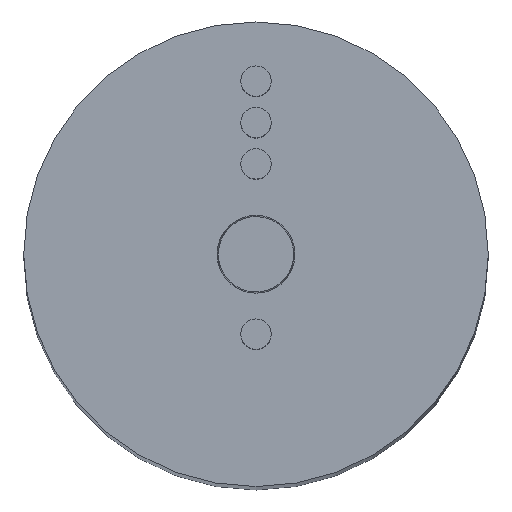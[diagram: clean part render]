
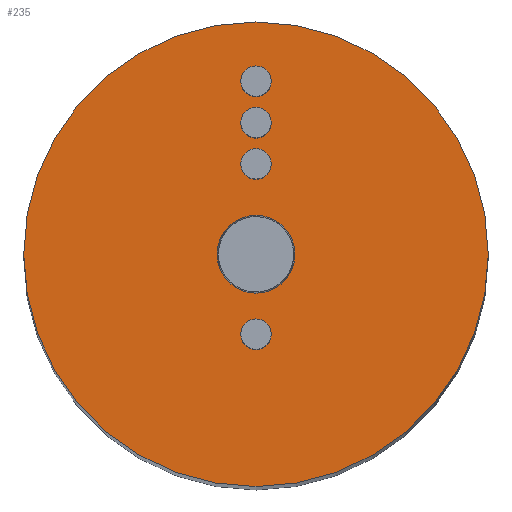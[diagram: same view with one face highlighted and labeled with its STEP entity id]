
A CAD part, top view. The second image highlights one B-rep face of the part: STEP entity #235.
In plain terms, the highlighted planar face has unit normal (0, 0, 1).
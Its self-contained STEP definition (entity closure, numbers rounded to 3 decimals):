
#235=ADVANCED_FACE('',(#307,#308,#309,#310,#311,#312),#313,.F.);
#307=FACE_OUTER_BOUND('',#428,.T.);
#308=FACE_BOUND('',#429,.T.);
#309=FACE_BOUND('',#430,.T.);
#310=FACE_BOUND('',#431,.T.);
#311=FACE_BOUND('',#432,.T.);
#312=FACE_BOUND('',#433,.T.);
#313=PLANE('',#434);
#428=EDGE_LOOP('',(#621,#622));
#429=EDGE_LOOP('',(#623,#624));
#430=EDGE_LOOP('',(#625,#626));
#431=EDGE_LOOP('',(#627,#628));
#432=EDGE_LOOP('',(#629,#630));
#433=EDGE_LOOP('',(#631,#632));
#434=AXIS2_PLACEMENT_3D('',#633,#634,#635);
#621=ORIENTED_EDGE('',*,*,#917,.F.);
#622=ORIENTED_EDGE('',*,*,#948,.F.);
#623=ORIENTED_EDGE('',*,*,#935,.T.);
#624=ORIENTED_EDGE('',*,*,#939,.T.);
#625=ORIENTED_EDGE('',*,*,#931,.T.);
#626=ORIENTED_EDGE('',*,*,#941,.T.);
#627=ORIENTED_EDGE('',*,*,#927,.T.);
#628=ORIENTED_EDGE('',*,*,#943,.T.);
#629=ORIENTED_EDGE('',*,*,#923,.T.);
#630=ORIENTED_EDGE('',*,*,#945,.T.);
#631=ORIENTED_EDGE('',*,*,#947,.T.);
#632=ORIENTED_EDGE('',*,*,#919,.T.);
#633=CARTESIAN_POINT('',(-25.487,16.042,81.5));
#634=DIRECTION('',(0.0,0.0,-1.0));
#635=DIRECTION('',(0.0,-1.0,0.0));
#917=EDGE_CURVE('',#1035,#1031,#1037,.T.);
#919=EDGE_CURVE('',#1041,#1038,#1042,.T.);
#923=EDGE_CURVE('',#1049,#1046,#1050,.T.);
#927=EDGE_CURVE('',#1057,#1054,#1058,.T.);
#931=EDGE_CURVE('',#1065,#1062,#1066,.T.);
#935=EDGE_CURVE('',#1073,#1070,#1074,.T.);
#939=EDGE_CURVE('',#1070,#1073,#1079,.T.);
#941=EDGE_CURVE('',#1062,#1065,#1081,.T.);
#943=EDGE_CURVE('',#1054,#1057,#1083,.T.);
#945=EDGE_CURVE('',#1046,#1049,#1085,.T.);
#947=EDGE_CURVE('',#1038,#1041,#1087,.T.);
#948=EDGE_CURVE('',#1031,#1035,#1088,.T.);
#1031=VERTEX_POINT('',#1221);
#1035=VERTEX_POINT('',#1226);
#1037=CIRCLE('',#1229,9.55);
#1038=VERTEX_POINT('',#1230);
#1041=VERTEX_POINT('',#1234);
#1042=CIRCLE('',#1235,1.6);
#1046=VERTEX_POINT('',#1240);
#1049=VERTEX_POINT('',#1244);
#1050=CIRCLE('',#1245,0.625);
#1054=VERTEX_POINT('',#1250);
#1057=VERTEX_POINT('',#1254);
#1058=CIRCLE('',#1255,0.625);
#1062=VERTEX_POINT('',#1260);
#1065=VERTEX_POINT('',#1264);
#1066=CIRCLE('',#1265,0.625);
#1070=VERTEX_POINT('',#1270);
#1073=VERTEX_POINT('',#1274);
#1074=CIRCLE('',#1275,0.625);
#1079=CIRCLE('',#1281,0.625);
#1081=CIRCLE('',#1283,0.625);
#1083=CIRCLE('',#1285,0.625);
#1085=CIRCLE('',#1287,0.625);
#1087=CIRCLE('',#1289,1.6);
#1088=CIRCLE('',#1290,9.55);
#1221=CARTESIAN_POINT('',(-35.037,16.042,81.5));
#1226=CARTESIAN_POINT('',(-15.937,16.042,81.5));
#1229=AXIS2_PLACEMENT_3D('',#1481,#1482,#1483);
#1230=CARTESIAN_POINT('',(-23.887,16.042,81.5));
#1234=CARTESIAN_POINT('',(-27.087,16.042,81.5));
#1235=AXIS2_PLACEMENT_3D('',#1485,#1486,#1487);
#1240=CARTESIAN_POINT('',(-26.112,21.442,81.5));
#1244=CARTESIAN_POINT('',(-24.862,21.442,81.5));
#1245=AXIS2_PLACEMENT_3D('',#1493,#1494,#1495);
#1250=CARTESIAN_POINT('',(-26.112,23.142,81.5));
#1254=CARTESIAN_POINT('',(-24.862,23.142,81.5));
#1255=AXIS2_PLACEMENT_3D('',#1501,#1502,#1503);
#1260=CARTESIAN_POINT('',(-26.112,19.742,81.5));
#1264=CARTESIAN_POINT('',(-24.862,19.742,81.5));
#1265=AXIS2_PLACEMENT_3D('',#1509,#1510,#1511);
#1270=CARTESIAN_POINT('',(-26.112,12.742,81.5));
#1274=CARTESIAN_POINT('',(-24.862,12.742,81.5));
#1275=AXIS2_PLACEMENT_3D('',#1517,#1518,#1519);
#1281=AXIS2_PLACEMENT_3D('',#1527,#1528,#1529);
#1283=AXIS2_PLACEMENT_3D('',#1533,#1534,#1535);
#1285=AXIS2_PLACEMENT_3D('',#1539,#1540,#1541);
#1287=AXIS2_PLACEMENT_3D('',#1545,#1546,#1547);
#1289=AXIS2_PLACEMENT_3D('',#1551,#1552,#1553);
#1290=AXIS2_PLACEMENT_3D('',#1554,#1555,#1556);
#1481=CARTESIAN_POINT('',(-25.487,16.042,81.5));
#1482=DIRECTION('',(0.0,0.0,-1.0));
#1483=DIRECTION('',(-1.0,0.0,0.0));
#1485=CARTESIAN_POINT('',(-25.487,16.042,81.5));
#1486=DIRECTION('',(0.0,0.0,-1.0));
#1487=DIRECTION('',(1.0,0.0,0.0));
#1493=CARTESIAN_POINT('',(-25.487,21.442,81.5));
#1494=DIRECTION('',(0.0,0.0,-1.0));
#1495=DIRECTION('',(-1.0,0.0,0.0));
#1501=CARTESIAN_POINT('',(-25.487,23.142,81.5));
#1502=DIRECTION('',(0.0,0.0,-1.0));
#1503=DIRECTION('',(-1.0,0.0,0.0));
#1509=CARTESIAN_POINT('',(-25.487,19.742,81.5));
#1510=DIRECTION('',(0.0,0.0,-1.0));
#1511=DIRECTION('',(-1.0,0.0,0.0));
#1517=CARTESIAN_POINT('',(-25.487,12.742,81.5));
#1518=DIRECTION('',(0.0,0.0,-1.0));
#1519=DIRECTION('',(-1.0,0.0,0.0));
#1527=CARTESIAN_POINT('',(-25.487,12.742,81.5));
#1528=DIRECTION('',(0.0,0.0,-1.0));
#1529=DIRECTION('',(-1.0,0.0,0.0));
#1533=CARTESIAN_POINT('',(-25.487,19.742,81.5));
#1534=DIRECTION('',(0.0,0.0,-1.0));
#1535=DIRECTION('',(-1.0,0.0,0.0));
#1539=CARTESIAN_POINT('',(-25.487,23.142,81.5));
#1540=DIRECTION('',(0.0,0.0,-1.0));
#1541=DIRECTION('',(-1.0,0.0,0.0));
#1545=CARTESIAN_POINT('',(-25.487,21.442,81.5));
#1546=DIRECTION('',(0.0,0.0,-1.0));
#1547=DIRECTION('',(-1.0,0.0,0.0));
#1551=CARTESIAN_POINT('',(-25.487,16.042,81.5));
#1552=DIRECTION('',(0.0,0.0,-1.0));
#1553=DIRECTION('',(1.0,0.0,0.0));
#1554=CARTESIAN_POINT('',(-25.487,16.042,81.5));
#1555=DIRECTION('',(0.0,0.0,-1.0));
#1556=DIRECTION('',(-1.0,0.0,0.0));
